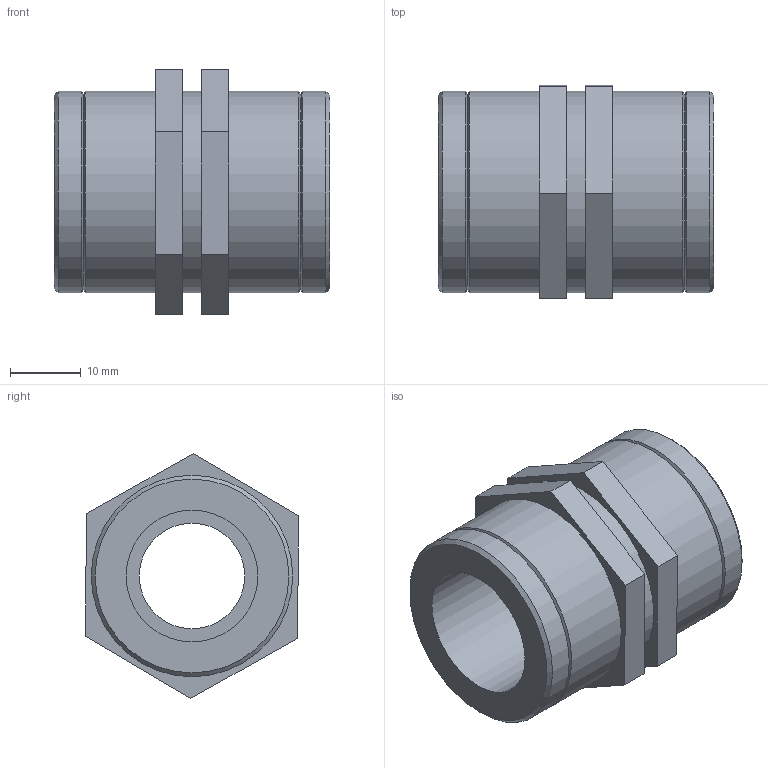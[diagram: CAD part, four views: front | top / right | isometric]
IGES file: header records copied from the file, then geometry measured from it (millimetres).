
Global section: file name: 050107005_0501070050A.ipt; native system: Autodesk Inventor 2015; preprocessor: unknown; author: KIM; date: 20170618.093101; units: millimetre
Bounding box: 39 x 30.18 x 34.64 mm (x, y, z)
Volume: 15791.9 mm3; surface area: 7368.9 mm2
Topology: 1 solids, 1 shells, 34 faces, 76 edges, 50 vertices
Faces by surface type: plane 20, cone 6, cylinder 5, revolution 3
Full cylindrical faces by diameter (mm): 28.5 x5
